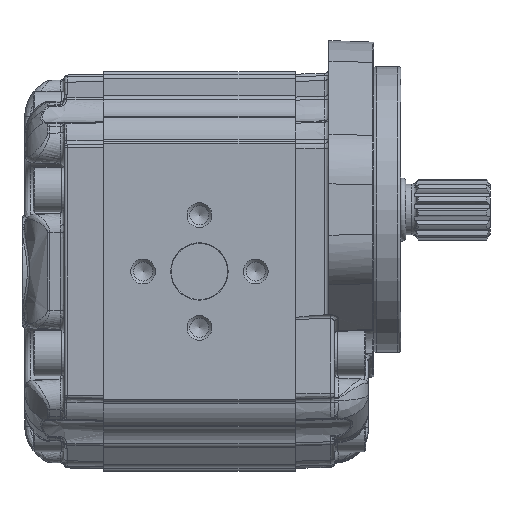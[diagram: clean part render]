
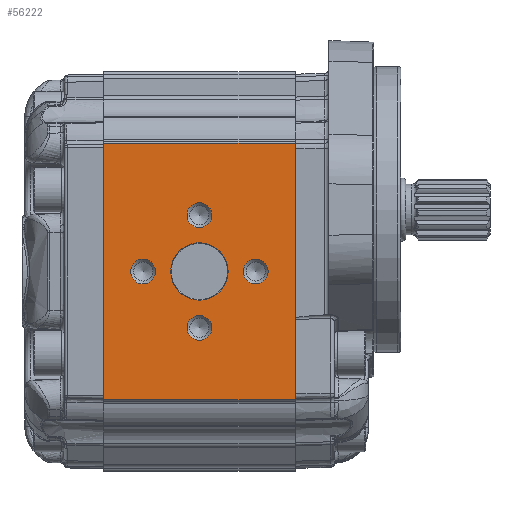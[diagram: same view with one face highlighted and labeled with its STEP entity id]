
A CAD part, left-side view. The second image highlights one B-rep face of the part: STEP entity #56222.
In plain terms, the highlighted planar face has unit normal (-1, 0, 0).
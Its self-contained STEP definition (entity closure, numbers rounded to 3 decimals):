
#6461=LINE('',#106767,#8095);
#6472=LINE('',#106852,#8106);
#6510=LINE('',#106960,#8144);
#6511=LINE('',#106961,#8145);
#8095=VECTOR('',#62851,1000.);
#8106=VECTOR('',#62926,1000.);
#8144=VECTOR('',#63052,1000.);
#8145=VECTOR('',#63053,1000.);
#14087=ORIENTED_EDGE('',*,*,#23698,.T.);
#14088=ORIENTED_EDGE('',*,*,#23699,.T.);
#14089=ORIENTED_EDGE('',*,*,#23700,.T.);
#14090=ORIENTED_EDGE('',*,*,#23701,.T.);
#14091=ORIENTED_EDGE('',*,*,#23702,.T.);
#14092=ORIENTED_EDGE('',*,*,#23602,.F.);
#14093=ORIENTED_EDGE('',*,*,#23703,.T.);
#14094=ORIENTED_EDGE('',*,*,#23644,.F.);
#14095=ORIENTED_EDGE('',*,*,#23704,.T.);
#23602=EDGE_CURVE('',#28736,#28737,#6461,.T.);
#23644=EDGE_CURVE('',#28778,#28779,#6472,.T.);
#23698=EDGE_CURVE('',#28800,#28800,#31581,.F.);
#23699=EDGE_CURVE('',#28801,#28801,#31582,.F.);
#23700=EDGE_CURVE('',#28802,#28802,#31583,.F.);
#23701=EDGE_CURVE('',#28803,#28803,#31584,.F.);
#23702=EDGE_CURVE('',#28804,#28804,#31585,.F.);
#23703=EDGE_CURVE('',#28736,#28779,#6510,.F.);
#23704=EDGE_CURVE('',#28778,#28737,#6511,.F.);
#28736=VERTEX_POINT('',#106766);
#28737=VERTEX_POINT('',#106768);
#28778=VERTEX_POINT('',#106851);
#28779=VERTEX_POINT('',#106853);
#28800=VERTEX_POINT('',#106951);
#28801=VERTEX_POINT('',#106953);
#28802=VERTEX_POINT('',#106955);
#28803=VERTEX_POINT('',#106957);
#28804=VERTEX_POINT('',#106959);
#31581=CIRCLE('',#58884,4.4);
#31582=CIRCLE('',#58885,4.4);
#31583=CIRCLE('',#58886,4.4);
#31584=CIRCLE('',#58887,4.4);
#31585=CIRCLE('',#58888,10.2);
#32924=EDGE_LOOP('',(#14087));
#32925=EDGE_LOOP('',(#14088));
#32926=EDGE_LOOP('',(#14089));
#32927=EDGE_LOOP('',(#14090));
#32928=EDGE_LOOP('',(#14091));
#32929=EDGE_LOOP('',(#14092,#14093,#14094,#14095));
#35657=FACE_BOUND('',#32924,.T.);
#35658=FACE_BOUND('',#32925,.T.);
#35659=FACE_BOUND('',#32926,.T.);
#35660=FACE_BOUND('',#32927,.T.);
#35661=FACE_BOUND('',#32928,.T.);
#35662=FACE_BOUND('',#32929,.T.);
#37473=PLANE('',#58883);
#56222=ADVANCED_FACE('',(#35657,#35658,#35659,#35660,#35661,#35662),#37473,
 .T.);
#58883=AXIS2_PLACEMENT_3D('',#106949,#63040,#63041);
#58884=AXIS2_PLACEMENT_3D('',#106950,#63042,#63043);
#58885=AXIS2_PLACEMENT_3D('',#106952,#63044,#63045);
#58886=AXIS2_PLACEMENT_3D('',#106954,#63046,#63047);
#58887=AXIS2_PLACEMENT_3D('',#106956,#63048,#63049);
#58888=AXIS2_PLACEMENT_3D('',#106958,#63050,#63051);
#62851=DIRECTION('',(0.,0.,1.));
#62926=DIRECTION('',(0.,0.,-1.));
#63040=DIRECTION('',(-1.,0.,0.));
#63041=DIRECTION('',(0.,0.,-1.));
#63042=DIRECTION('',(-1.,0.,0.));
#63043=DIRECTION('',(0.,0.,-1.));
#63044=DIRECTION('',(-1.,0.,0.));
#63045=DIRECTION('',(0.,0.,-1.));
#63046=DIRECTION('',(-1.,0.,0.));
#63047=DIRECTION('',(0.,0.,-1.));
#63048=DIRECTION('',(-1.,0.,0.));
#63049=DIRECTION('',(0.,0.,-1.));
#63050=DIRECTION('',(-1.,0.,0.));
#63051=DIRECTION('',(0.,0.,-1.));
#63052=DIRECTION('',(0.,1.,0.));
#63053=DIRECTION('',(0.,-1.,0.));
#106766=CARTESIAN_POINT('',(-57.5,68.,-45.5));
#106767=CARTESIAN_POINT('',(-57.5,68.,-84.819));
#106768=CARTESIAN_POINT('',(-57.5,68.,45.5));
#106851=CARTESIAN_POINT('',(-57.5,0.,45.5));
#106852=CARTESIAN_POINT('',(-57.5,0.,-44.978));
#106853=CARTESIAN_POINT('',(-57.5,0.,-45.5));
#106949=CARTESIAN_POINT('',(-57.5,-154.175,-84.819));
#106950=CARTESIAN_POINT('',(-57.5,34.,20.));
#106951=CARTESIAN_POINT('',(-57.5,34.,15.6));
#106952=CARTESIAN_POINT('',(-57.5,54.,0.));
#106953=CARTESIAN_POINT('',(-57.5,54.,-4.4));
#106954=CARTESIAN_POINT('',(-57.5,34.,-20.));
#106955=CARTESIAN_POINT('',(-57.5,34.,-24.4));
#106956=CARTESIAN_POINT('',(-57.5,14.,0.));
#106957=CARTESIAN_POINT('',(-57.5,14.,-4.4));
#106958=CARTESIAN_POINT('',(-57.5,34.,0.));
#106959=CARTESIAN_POINT('',(-57.5,34.,-10.2));
#106960=CARTESIAN_POINT('',(-57.5,-154.175,-45.5));
#106961=CARTESIAN_POINT('',(-57.5,-154.175,45.5));
